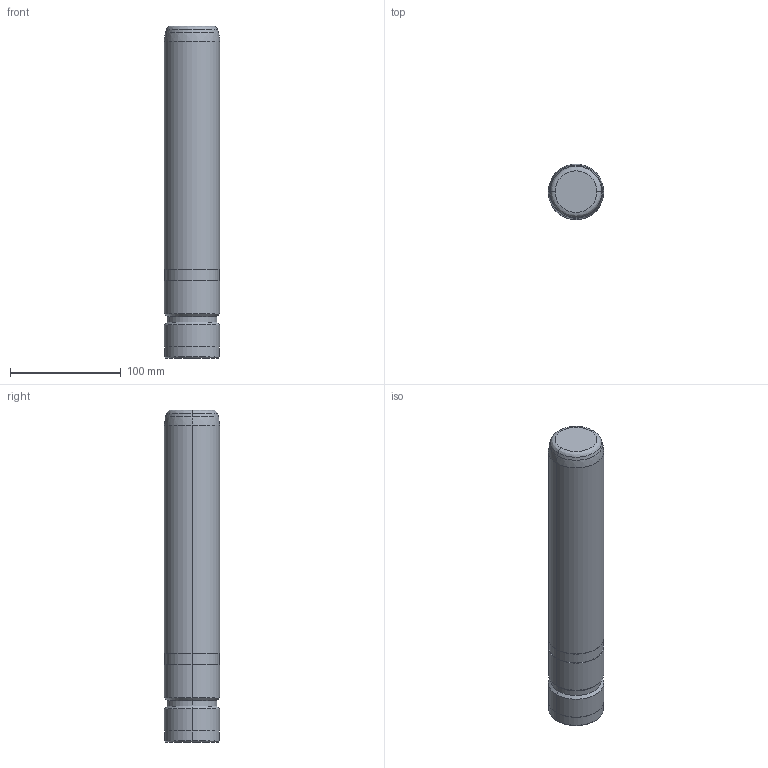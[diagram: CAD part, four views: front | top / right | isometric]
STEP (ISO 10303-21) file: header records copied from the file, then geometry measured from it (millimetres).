
FILE_DESCRIPTION((''),'2;1');
FILE_NAME('','2010-08-29T23:15:35+09:00',('misumi'),(''),'M/STEP i/f 1R2-14','CADmeister v5.1','');
FILE_SCHEMA(('AUTOMOTIVE_DESIGN'));
Length unit declared in the file: millimetre
Products named in the file (1): GPM50-300
Bounding box: 50 x 50 x 300 mm (x, y, z)
Volume: 582542 mm3; surface area: 50668.6 mm2
Topology: 1 solids, 1 shells, 29 faces, 56 edges, 32 vertices
Faces by surface type: cylinder 12, cone 8, plane 5, revolution 4
Entity records: 840 total; most frequent: DIRECTION 152, CARTESIAN_POINT 128, ORIENTED_EDGE 112, AXIS2_PLACEMENT_3D 64, EDGE_CURVE 56, CIRCLE 38, VERTEX_POINT 32, EDGE_LOOP 32
